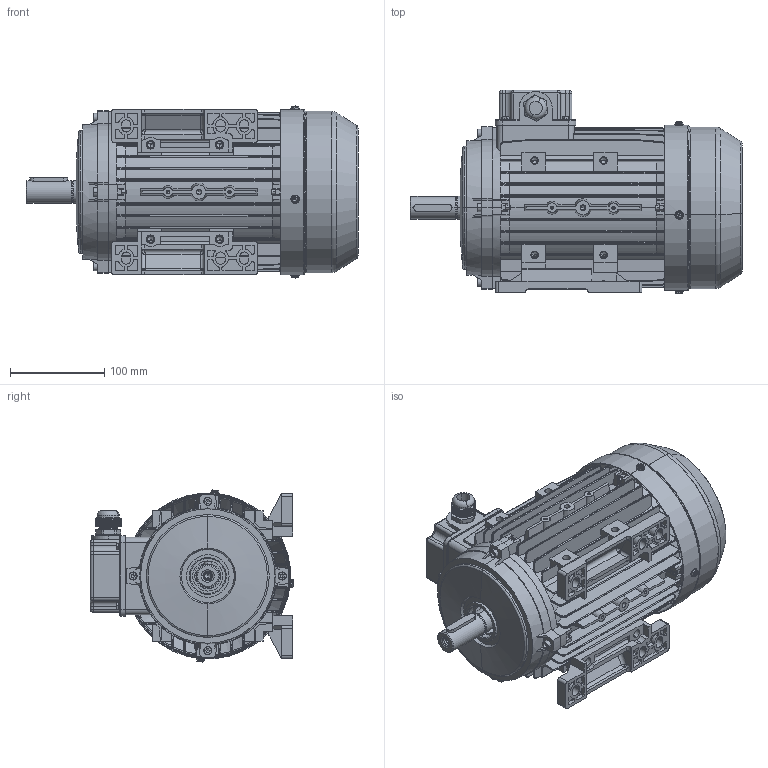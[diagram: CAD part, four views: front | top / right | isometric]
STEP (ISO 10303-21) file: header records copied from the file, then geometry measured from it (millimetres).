
FILE_DESCRIPTION (( 'STEP AP203' ), '1' );
FILE_NAME ('MSL90LX assembly B3.STEP', '2017-11-26T09:42:25', ( 'user' ), ( 'china' ), 'SwSTEP 2.0', 'SolidWorks 2016', '' );
FILE_SCHEMA (( 'CONFIG_CONTROL_DESIGN' ));
Length unit declared in the file: millimetre
Products named in the file (17): MSL80-90堤盄碟蚾饜; M90儂褲_L; GB-T 41-2000 M5; GB-T 70.1-2000 M5_30; GB-T 29.2-1988 M4鞠褒坋趼湍菜_05; MS90 綴裔瑞欶郪磁; M90瑞欶_082; GB-T 5780-2000 M5_030; MSL90LX assembly B3; M20 cable gland; MSL80-90堤盄碟_MSL80-90; M90L 菁褐(酘); M90傷裔B3_Post; M90L 菁褐(衵); M90-Shaft drive end; GB-T 29.2-1988 M4鞠褒坋趼湍菜_08; M90傷裔B3_Drive
Assembly tree (35 placements, depth 3):
  MSL90LX assembly B3
    M90儂褲_L
    M90-Shaft drive end
    M90L 菁褐(衵)
    M90L 菁褐(酘)
    MS90 綴裔瑞欶郪磁
      M90傷裔B3_Post
      M90瑞欶_082
      GB-T 29.2-1988 M4鞠褒坋趼湍菜_08  x4
    GB-T 41-2000 M5  x8
    GB-T 70.1-2000 M5_30  x4
    GB-T 5780-2000 M5_030  x4
    MSL80-90堤盄碟蚾饜
      MSL80-90堤盄碟_MSL80-90
      GB-T 29.2-1988 M4鞠褒坋趼湍菜_05  x4
      M20 cable gland
    M90傷裔B3_Drive
Bounding box: 351.5 x 215.55 x 182.1 mm (x, y, z)
Volume: 1200359 mm3; surface area: 749982.7 mm2
Topology: 33 solids, 33 shells, 4185 faces, 10579 edges, 6512 vertices
Faces by surface type: plane 1873, cylinder 1189, cone 612, bspline 378, torus 124, sphere 9
Entity records: 135932 total; most frequent: CARTESIAN_POINT 53795, ORIENTED_EDGE 17486, DIRECTION 15436, EDGE_CURVE 8743, VERTEX_POINT 5558, AXIS2_PLACEMENT_3D 5287, LINE 4862, VECTOR 4862
